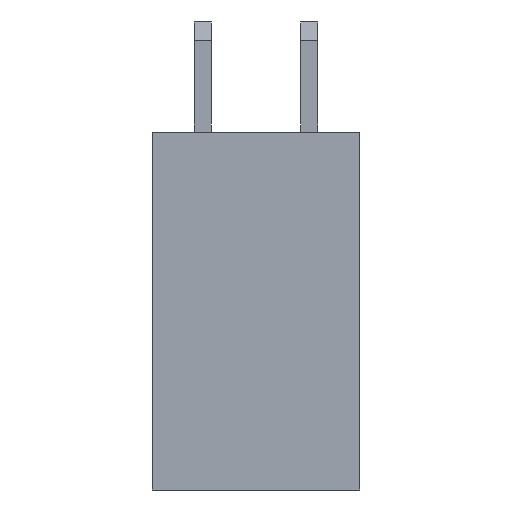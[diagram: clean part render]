
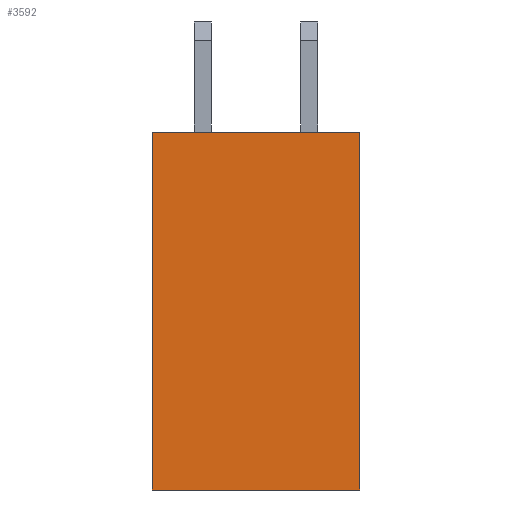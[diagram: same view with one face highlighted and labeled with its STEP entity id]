
A CAD part, left-side view. The second image highlights one B-rep face of the part: STEP entity #3592.
In plain terms, the highlighted planar face has unit normal (-1, 0, 0).
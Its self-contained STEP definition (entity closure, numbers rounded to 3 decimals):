
#840 = VERTEX_POINT('',#841);
#841 = CARTESIAN_POINT('',(-15.494,-2.493,-10.275));
#847 = EDGE_CURVE('',#840,#848,#850,.T.);
#848 = VERTEX_POINT('',#849);
#849 = CARTESIAN_POINT('',(-15.494,2.46,-10.275));
#850 = LINE('',#851,#852);
#851 = CARTESIAN_POINT('',(-15.494,-2.493,-10.275));
#852 = VECTOR('',#853,1.);
#853 = DIRECTION('',(0.,1.,0.));
#3560 = VERTEX_POINT('',#3561);
#3561 = CARTESIAN_POINT('',(-15.494,-2.493,-1.766));
#3567 = EDGE_CURVE('',#840,#3560,#3568,.T.);
#3568 = LINE('',#3569,#3570);
#3569 = CARTESIAN_POINT('',(-15.494,-2.493,-10.275));
#3570 = VECTOR('',#3571,1.);
#3571 = DIRECTION('',(0.,0.,1.));
#3592 = ADVANCED_FACE('',(#3593),#3611,.F.);
#3593 = FACE_BOUND('',#3594,.T.);
#3594 = EDGE_LOOP('',(#3595,#3603,#3609,#3610));
#3595 = ORIENTED_EDGE('',*,*,#3596,.T.);
#3596 = EDGE_CURVE('',#3560,#3597,#3599,.T.);
#3597 = VERTEX_POINT('',#3598);
#3598 = CARTESIAN_POINT('',(-15.494,2.46,-1.766));
#3599 = LINE('',#3600,#3601);
#3600 = CARTESIAN_POINT('',(-15.494,-2.493,-1.766));
#3601 = VECTOR('',#3602,1.);
#3602 = DIRECTION('',(0.,1.,0.));
#3603 = ORIENTED_EDGE('',*,*,#3604,.F.);
#3604 = EDGE_CURVE('',#848,#3597,#3605,.T.);
#3605 = LINE('',#3606,#3607);
#3606 = CARTESIAN_POINT('',(-15.494,2.46,-10.275));
#3607 = VECTOR('',#3608,1.);
#3608 = DIRECTION('',(0.,0.,1.));
#3609 = ORIENTED_EDGE('',*,*,#847,.F.);
#3610 = ORIENTED_EDGE('',*,*,#3567,.T.);
#3611 = PLANE('',#3612);
#3612 = AXIS2_PLACEMENT_3D('',#3613,#3614,#3615);
#3613 = CARTESIAN_POINT('',(-15.494,-2.493,-10.275));
#3614 = DIRECTION('',(1.,0.,0.));
#3615 = DIRECTION('',(0.,-1.,0.));
